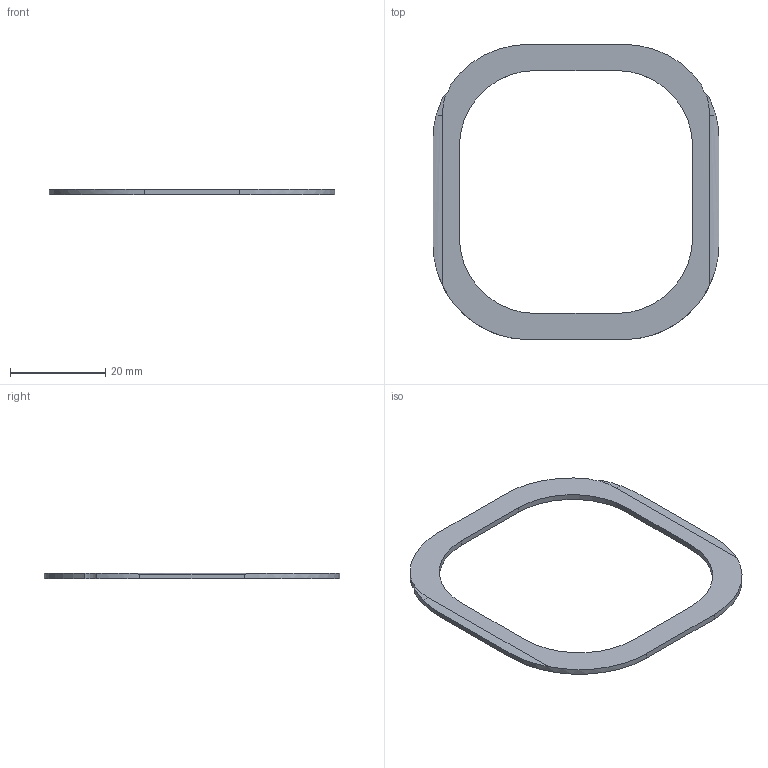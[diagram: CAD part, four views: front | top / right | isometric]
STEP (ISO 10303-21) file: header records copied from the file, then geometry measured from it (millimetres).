
FILE_DESCRIPTION(('Open CASCADE Model'),'2;1');
FILE_NAME('Open CASCADE Shape Model','2026-09-08T13:32:07',('Author'),( 'Open CASCADE'),'Open CASCADE STEP processor 7.7','Open CASCADE 7.7' ,'Unknown');
FILE_SCHEMA(('AUTOMOTIVE_DESIGN { 1 0 10303 214 1 1 1 1 }'));
Length unit declared in the file: millimetre
Products named in the file (1): Open CASCADE STEP translator 7.7 21
Bounding box: 60 x 62 x 1.2 mm (x, y, z)
Volume: 1307.7 mm3; surface area: 2639.6 mm2
Topology: 1 solids, 1 shells, 26 faces, 72 edges, 48 vertices
Faces by surface type: cylinder 14, plane 10, torus 2
Entity records: 2017 total; most frequent: CARTESIAN_POINT 625, DIRECTION 247, ORIENTED_EDGE 144, PCURVE 144, DEFINITIONAL_REPRESENTATION 144, LINE 128, VECTOR 128, EDGE_CURVE 72
